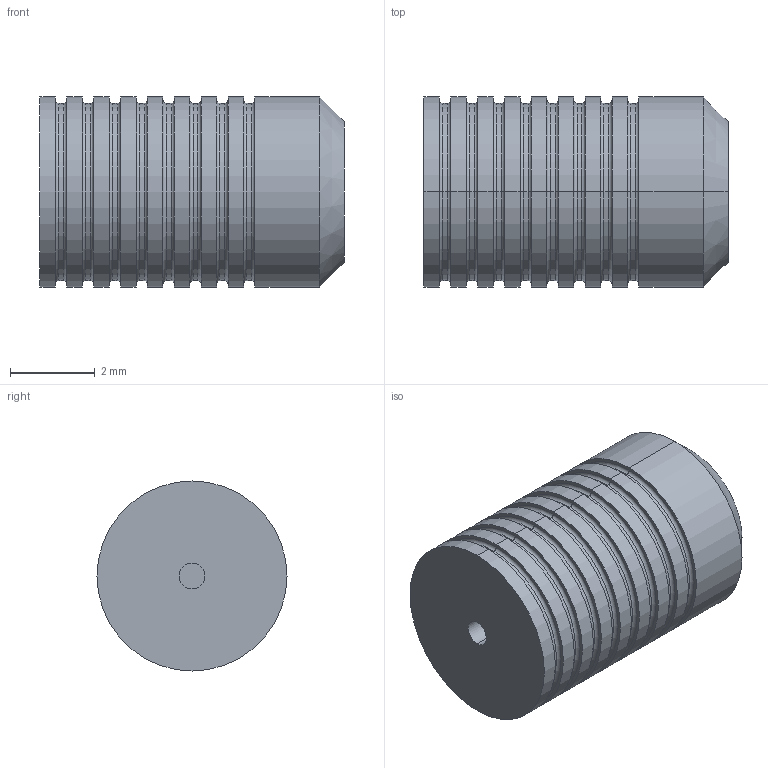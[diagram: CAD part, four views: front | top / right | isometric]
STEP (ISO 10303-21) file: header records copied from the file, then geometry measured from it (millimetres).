
FILE_DESCRIPTION (( 'STEP AP214' ), '1' );
FILE_NAME ('PLGM0451 _ _ 0A.STEP', '2020-02-19T17:56:33', ( 'tlc' ), ( 'Microsoft' ), 'SwSTEP 2.0', 'SolidWorks 2019', '' );
FILE_SCHEMA (( 'AUTOMOTIVE_DESIGN' ));
Length unit declared in the file: inch
Products named in the file (1): PLGM0451 _ _ 0A
Bounding box: 7.19 x 4.49 x 4.49 mm (x, y, z)
Volume: 105.7 mm3; surface area: 163.7 mm2
Topology: 1 solids, 1 shells, 89 faces, 176 edges, 106 vertices
Faces by surface type: cylinder 36, torus 32, plane 19, cone 2
Entity records: 2376 total; most frequent: DIRECTION 494, CARTESIAN_POINT 372, ORIENTED_EDGE 352, AXIS2_PLACEMENT_3D 228, EDGE_CURVE 176, CIRCLE 138, EDGE_LOOP 106, VERTEX_POINT 106
